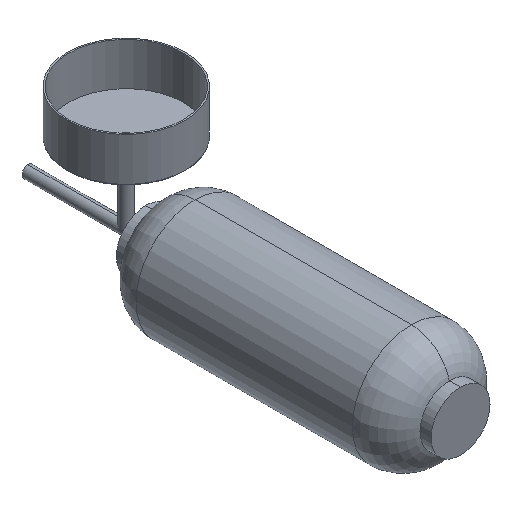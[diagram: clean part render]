
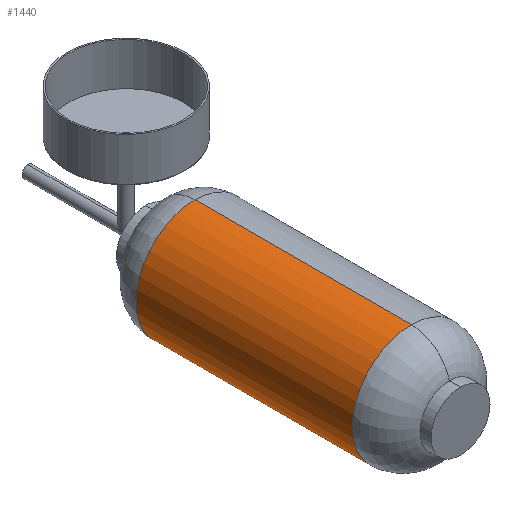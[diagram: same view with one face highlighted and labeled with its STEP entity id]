
A CAD part, isometric view. The second image highlights one B-rep face of the part: STEP entity #1440.
In plain terms, the highlighted cylindrical face has radius 60 mm (diameter 120 mm), a partial arc.
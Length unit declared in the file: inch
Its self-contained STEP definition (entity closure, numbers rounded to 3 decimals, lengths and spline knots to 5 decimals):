
#2 = CARTESIAN_POINT ( 'NONE',  ( 0., 0., -2.3622 ) ) ;
#4 = CIRCLE ( 'NONE', #749, 2.3622 ) ;
#87 = LINE ( 'NONE', #835, #1125 ) ;
#97 = EDGE_CURVE ( 'NONE', #1454, #189, #87, .T. ) ;
#118 = DIRECTION ( 'NONE',  ( 0., -1., 0. ) ) ;
#133 = VERTEX_POINT ( 'NONE', #1074 ) ;
#145 = DIRECTION ( 'NONE',  ( 0., -1., 0. ) ) ;
#147 = DIRECTION ( 'NONE',  ( 0., -1., 0. ) ) ;
#187 = ORIENTED_EDGE ( 'NONE', *, *, #536, .T. ) ;
#189 = VERTEX_POINT ( 'NONE', #812 ) ;
#223 = DIRECTION ( 'NONE',  ( 0., 0., -1. ) ) ;
#260 = AXIS2_PLACEMENT_3D ( 'NONE', #504, #145, #1381 ) ;
#301 = ORIENTED_EDGE ( 'NONE', *, *, #97, .F. ) ;
#321 = EDGE_LOOP ( 'NONE', ( #301, #187, #1337, #368 ) ) ;
#368 = ORIENTED_EDGE ( 'NONE', *, *, #1254, .F. ) ;
#376 = DIRECTION ( 'NONE',  ( 0., 0., -1. ) ) ;
#504 = CARTESIAN_POINT ( 'NONE',  ( 0., 10.23622, 0. ) ) ;
#536 = EDGE_CURVE ( 'NONE', #1454, #133, #640, .T. ) ;
#592 = CYLINDRICAL_SURFACE ( 'NONE', #1201, 2.3622 ) ;
#640 = CIRCLE ( 'NONE', #260, 2.3622 ) ;
#741 = CARTESIAN_POINT ( 'NONE',  ( 0., 10.23622, 2.3622 ) ) ;
#749 = AXIS2_PLACEMENT_3D ( 'NONE', #1416, #1549, #223 ) ;
#812 = CARTESIAN_POINT ( 'NONE',  ( 0., 1.5748, 2.3622 ) ) ;
#835 = CARTESIAN_POINT ( 'NONE',  ( 0., 0., 2.3622 ) ) ;
#957 = EDGE_CURVE ( 'NONE', #133, #1158, #1221, .T. ) ;
#975 = CARTESIAN_POINT ( 'NONE',  ( 0., 0., 0. ) ) ;
#1074 = CARTESIAN_POINT ( 'NONE',  ( 0., 10.23622, -2.3622 ) ) ;
#1125 = VECTOR ( 'NONE', #1322, 39.37008 ) ;
#1126 = CARTESIAN_POINT ( 'NONE',  ( 0., 1.5748, -2.3622 ) ) ;
#1131 = VECTOR ( 'NONE', #147, 39.37008 ) ;
#1158 = VERTEX_POINT ( 'NONE', #1126 ) ;
#1201 = AXIS2_PLACEMENT_3D ( 'NONE', #975, #118, #376 ) ;
#1204 = FACE_OUTER_BOUND ( 'NONE', #321, .T. ) ;
#1221 = LINE ( 'NONE', #2, #1131 ) ;
#1254 = EDGE_CURVE ( 'NONE', #189, #1158, #4, .T. ) ;
#1322 = DIRECTION ( 'NONE',  ( 0., -1., 0. ) ) ;
#1337 = ORIENTED_EDGE ( 'NONE', *, *, #957, .T. ) ;
#1381 = DIRECTION ( 'NONE',  ( 0., 0., -1. ) ) ;
#1416 = CARTESIAN_POINT ( 'NONE',  ( 0., 1.5748, 0. ) ) ;
#1440 = ADVANCED_FACE ( 'NONE', ( #1204 ), #592, .T. ) ;
#1454 = VERTEX_POINT ( 'NONE', #741 ) ;
#1549 = DIRECTION ( 'NONE',  ( 0., -1., 0. ) ) ;
